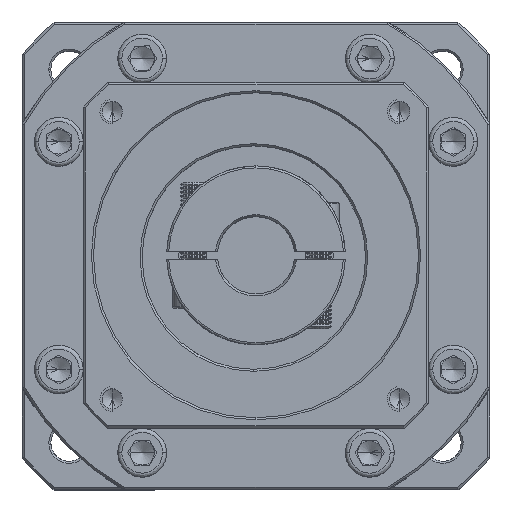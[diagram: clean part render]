
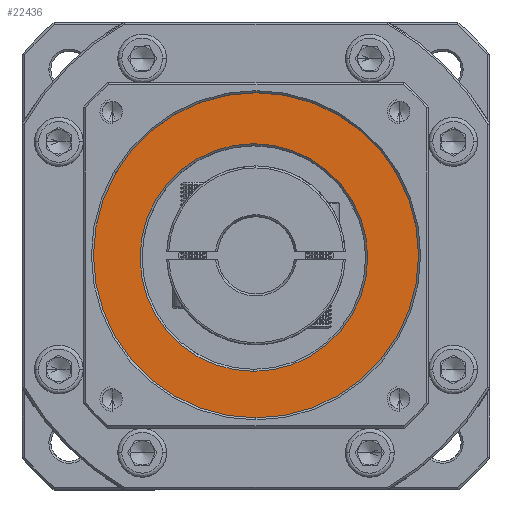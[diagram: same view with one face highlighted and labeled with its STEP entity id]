
A CAD part, top view. The second image highlights one B-rep face of the part: STEP entity #22436.
In plain terms, the highlighted planar face has unit normal (0, 0, 1).
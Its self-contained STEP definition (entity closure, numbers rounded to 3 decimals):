
#6531 = AXIS2_PLACEMENT_3D ( 'NONE', #48291, #7251, #124596 ) ;
#7251 = DIRECTION ( 'NONE',  ( 0., 0., 1. ) ) ;
#16191 = CARTESIAN_POINT ( 'NONE',  ( 68.649, 104.125, 1.933 ) ) ;
#20034 = CARTESIAN_POINT ( 'NONE',  ( 69.184, 116.666, 1.933 ) ) ;
#21737 = DIRECTION ( 'NONE',  ( 0., 0., 1. ) ) ;
#22436 = ADVANCED_FACE ( 'NONE', ( #44633, #62921 ), #118118, .T. ) ;
#27775 = EDGE_LOOP ( 'NONE', ( #125779, #94493 ) ) ;
#28631 = AXIS2_PLACEMENT_3D ( 'NONE', #34657, #67287, #68195 ) ;
#30404 = CIRCLE ( 'NONE', #6531, 40. ) ;
#30744 = CIRCLE ( 'NONE', #78122, 28. ) ;
#33498 = VERTEX_POINT ( 'NONE', #81763 ) ;
#34657 = CARTESIAN_POINT ( 'NONE',  ( 68.649, 76.125, 1.933 ) ) ;
#42296 = VERTEX_POINT ( 'NONE', #16191 ) ;
#44562 = CIRCLE ( 'NONE', #28631, 28. ) ;
#44633 = FACE_OUTER_BOUND ( 'NONE', #97193, .T. ) ;
#48291 = CARTESIAN_POINT ( 'NONE',  ( 69.184, 76.666, 1.933 ) ) ;
#48778 = AXIS2_PLACEMENT_3D ( 'NONE', #54807, #21737, #128323 ) ;
#54252 = CARTESIAN_POINT ( 'NONE',  ( 68.649, 76.125, 1.933 ) ) ;
#54807 = CARTESIAN_POINT ( 'NONE',  ( 69.184, 76.666, 1.933 ) ) ;
#55050 = CARTESIAN_POINT ( 'NONE',  ( 69.184, 76.666, 1.933 ) ) ;
#61516 = ORIENTED_EDGE ( 'NONE', *, *, #62443, .T. ) ;
#62443 = EDGE_CURVE ( 'NONE', #109616, #76594, #30404, .T. ) ;
#62921 = FACE_BOUND ( 'NONE', #27775, .T. ) ;
#65180 = EDGE_CURVE ( 'NONE', #42296, #33498, #30744, .T. ) ;
#66336 = DIRECTION ( 'NONE',  ( 0., 1., 0. ) ) ;
#67287 = DIRECTION ( 'NONE',  ( 0., 0., -1. ) ) ;
#68195 = DIRECTION ( 'NONE',  ( 0., 1., 0. ) ) ;
#76594 = VERTEX_POINT ( 'NONE', #20034 ) ;
#78122 = AXIS2_PLACEMENT_3D ( 'NONE', #54252, #130053, #66336 ) ;
#81763 = CARTESIAN_POINT ( 'NONE',  ( 68.649, 48.125, 1.933 ) ) ;
#83261 = EDGE_CURVE ( 'NONE', #33498, #42296, #44562, .T. ) ;
#85484 = AXIS2_PLACEMENT_3D ( 'NONE', #55050, #96557, #86768 ) ;
#86768 = DIRECTION ( 'NONE',  ( 0., 1., 0. ) ) ;
#94493 = ORIENTED_EDGE ( 'NONE', *, *, #83261, .T. ) ;
#96557 = DIRECTION ( 'NONE',  ( 0., 0., 1. ) ) ;
#97193 = EDGE_LOOP ( 'NONE', ( #111310, #61516 ) ) ;
#101458 = CIRCLE ( 'NONE', #85484, 40. ) ;
#106555 = CARTESIAN_POINT ( 'NONE',  ( 69.184, 36.666, 1.933 ) ) ;
#109616 = VERTEX_POINT ( 'NONE', #106555 ) ;
#111310 = ORIENTED_EDGE ( 'NONE', *, *, #137824, .T. ) ;
#118118 = PLANE ( 'NONE',  #48778 ) ;
#124596 = DIRECTION ( 'NONE',  ( 0., 1., 0. ) ) ;
#125779 = ORIENTED_EDGE ( 'NONE', *, *, #65180, .T. ) ;
#128323 = DIRECTION ( 'NONE',  ( 0., 1., 0. ) ) ;
#130053 = DIRECTION ( 'NONE',  ( 0., 0., -1. ) ) ;
#137824 = EDGE_CURVE ( 'NONE', #76594, #109616, #101458, .T. ) ;
